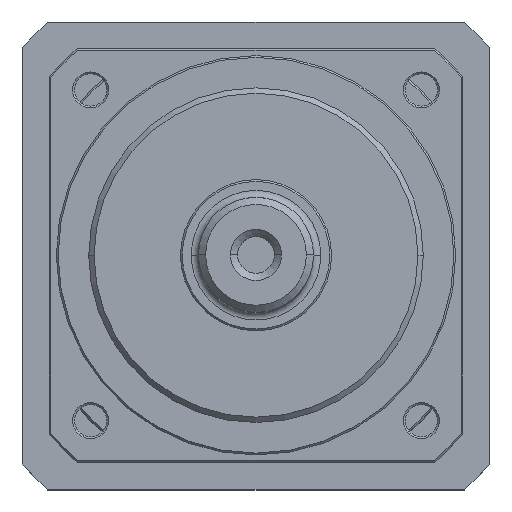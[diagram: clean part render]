
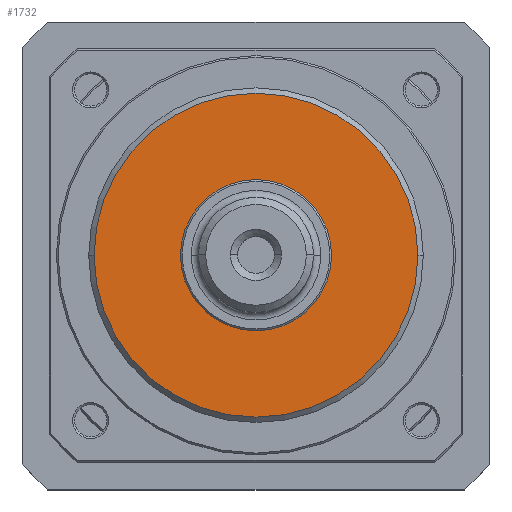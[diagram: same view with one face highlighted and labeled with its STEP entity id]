
A CAD part, top view. The second image highlights one B-rep face of the part: STEP entity #1732.
In plain terms, the highlighted planar face has unit normal (0, 0, 1).
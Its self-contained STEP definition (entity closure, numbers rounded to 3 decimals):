
#366 = CIRCLE ( 'NONE', #1961, 45. ) ;
#422 = CARTESIAN_POINT ( 'NONE',  ( 0., 0., 23.5 ) ) ;
#694 = CARTESIAN_POINT ( 'NONE',  ( 0., 0., 23.5 ) ) ;
#736 = DIRECTION ( 'NONE',  ( 0., 0., 1. ) ) ;
#801 = CARTESIAN_POINT ( 'NONE',  ( 45., 0., 23.5 ) ) ;
#898 = ORIENTED_EDGE ( 'NONE', *, *, #2816, .T. ) ;
#914 = DIRECTION ( 'NONE',  ( 0., 0., 1. ) ) ;
#1187 = ORIENTED_EDGE ( 'NONE', *, *, #1250, .T. ) ;
#1250 = EDGE_CURVE ( 'NONE', #4068, #2675, #366, .T. ) ;
#1459 = AXIS2_PLACEMENT_3D ( 'NONE', #2827, #4936, #4918 ) ;
#1496 = DIRECTION ( 'NONE',  ( 1., 0., 0. ) ) ;
#1549 = DIRECTION ( 'NONE',  ( 1., 0., 0. ) ) ;
#1732 = ADVANCED_FACE ( 'NONE', ( #4234, #2216 ), #2325, .T. ) ;
#1767 = AXIS2_PLACEMENT_3D ( 'NONE', #694, #736, #1549 ) ;
#1822 = CARTESIAN_POINT ( 'NONE',  ( 21., 0., 23.5 ) ) ;
#1961 = AXIS2_PLACEMENT_3D ( 'NONE', #2310, #4417, #4400 ) ;
#2216 = FACE_BOUND ( 'NONE', #3429, .T. ) ;
#2310 = CARTESIAN_POINT ( 'NONE',  ( 0., 0., 23.5 ) ) ;
#2325 = PLANE ( 'NONE',  #4893 ) ;
#2459 = CIRCLE ( 'NONE', #4102, 45. ) ;
#2478 = VERTEX_POINT ( 'NONE', #1822 ) ;
#2675 = VERTEX_POINT ( 'NONE', #801 ) ;
#2741 = DIRECTION ( 'NONE',  ( 0., 0., 1. ) ) ;
#2816 = EDGE_CURVE ( 'NONE', #2675, #4068, #2459, .T. ) ;
#2827 = CARTESIAN_POINT ( 'NONE',  ( 0., 0., 23.5 ) ) ;
#2832 = CIRCLE ( 'NONE', #1459, 21. ) ;
#2868 = VERTEX_POINT ( 'NONE', #4327 ) ;
#3131 = EDGE_CURVE ( 'NONE', #2478, #2868, #5067, .T. ) ;
#3429 = EDGE_LOOP ( 'NONE', ( #5135, #4689 ) ) ;
#3762 = EDGE_LOOP ( 'NONE', ( #898, #1187 ) ) ;
#4068 = VERTEX_POINT ( 'NONE', #5114 ) ;
#4102 = AXIS2_PLACEMENT_3D ( 'NONE', #422, #914, #4599 ) ;
#4234 = FACE_OUTER_BOUND ( 'NONE', #3762, .T. ) ;
#4327 = CARTESIAN_POINT ( 'NONE',  ( -21., 0., 23.5 ) ) ;
#4400 = DIRECTION ( 'NONE',  ( 1., 0., 0. ) ) ;
#4417 = DIRECTION ( 'NONE',  ( 0., 0., 1. ) ) ;
#4599 = DIRECTION ( 'NONE',  ( 1., 0., 0. ) ) ;
#4689 = ORIENTED_EDGE ( 'NONE', *, *, #3131, .F. ) ;
#4874 = EDGE_CURVE ( 'NONE', #2868, #2478, #2832, .T. ) ;
#4893 = AXIS2_PLACEMENT_3D ( 'NONE', #5236, #2741, #1496 ) ;
#4918 = DIRECTION ( 'NONE',  ( 1., 0., 0. ) ) ;
#4936 = DIRECTION ( 'NONE',  ( 0., 0., 1. ) ) ;
#5067 = CIRCLE ( 'NONE', #1767, 21. ) ;
#5114 = CARTESIAN_POINT ( 'NONE',  ( -45., 0., 23.5 ) ) ;
#5135 = ORIENTED_EDGE ( 'NONE', *, *, #4874, .F. ) ;
#5236 = CARTESIAN_POINT ( 'NONE',  ( 0., 0., 23.5 ) ) ;
